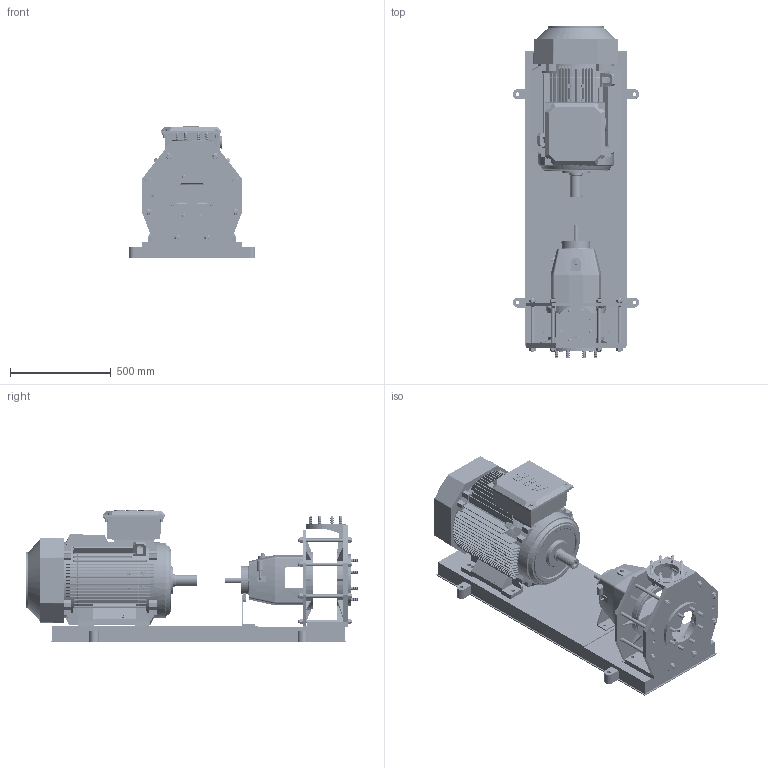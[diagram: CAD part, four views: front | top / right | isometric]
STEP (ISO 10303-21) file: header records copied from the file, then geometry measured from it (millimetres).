
FILE_DESCRIPTION((''),'2;1');
FILE_NAME('KSI 80-250--225 frame.stp','2010-08-04T13:46:07',(''),(''),'AutoCAD STEP 2000i','AutoCAD 2000i',', , ');
FILE_SCHEMA(('CONFIG_CONTROL_DESIGN'));
Length unit declared in the file: millimetre
Products named in the file (4): KSI 80-250--225 FRAME A; Motor; AnyA; Any
Assembly tree (1 placements, depth 2):
  KSI 80-250--225 FRAME A
    Motor
  AnyA
  Any
Bounding box: 628 x 1648.99 x 652.72 mm (x, y, z)
Volume: 183049416.1 mm3; surface area: 8186872.5 mm2
Topology: 54 solids, 54 shells, 10279 faces, 25721 edges, 15599 vertices
Faces by surface type: cone 3496, torus 3270, cylinder 1858, plane 1184, bspline 471
Entity records: 313362 total; most frequent: CARTESIAN_POINT 61578, DIRECTION 59230, ORIENTED_EDGE 51434, AXIS2_PLACEMENT_3D 25758, EDGE_CURVE 25717, CIRCLE 15948, VERTEX_POINT 15599, EDGE_LOOP 10518
